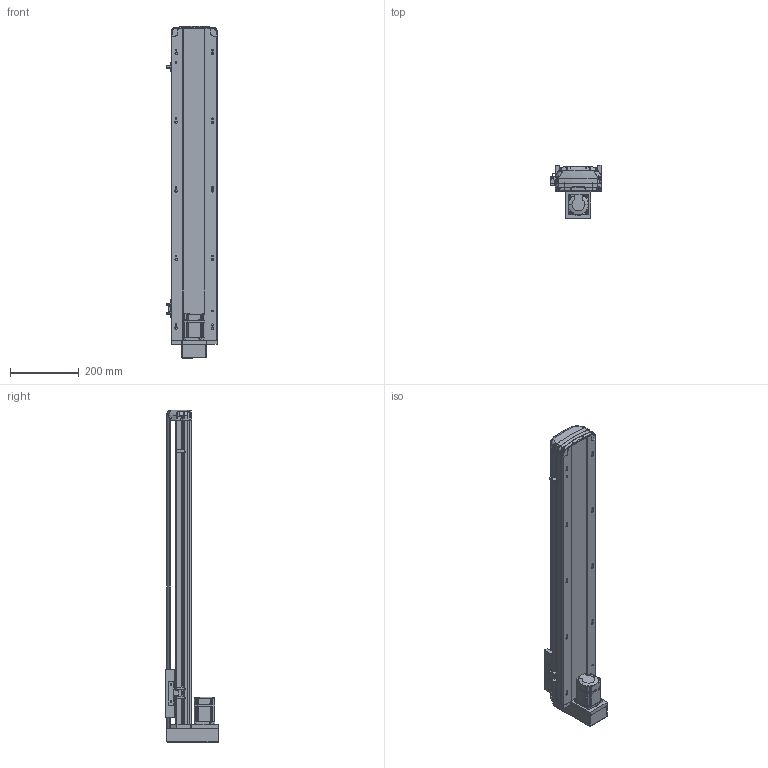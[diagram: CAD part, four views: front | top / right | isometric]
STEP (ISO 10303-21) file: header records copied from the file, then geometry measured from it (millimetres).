
FILE_DESCRIPTION (( 'STEP AP214' ), '1' );
FILE_NAME ('RTH14-XX-700-M-M20-C4.STEP', '2025-10-25T02:50:32', ( 'Microsoft' ), ( 'Microsoft' ), 'SwSTEP 2.0', 'SolidWorks 2018', '' );
FILE_SCHEMA (( 'AUTOMOTIVE_DESIGN' ));
Length unit declared in the file: millimetre
Products named in the file (10): N_RTH14-M-011P菁釱^RTH14-XX-XX-M-M20-C4; N_OMRON EE-SX672 传感器^RTH14-XX-XX-M-M20-C4; N_RTH13-M-018裔赽^RTH14-XX-XX-M-M20-C4; N_RTH14-R-004-SFSR16賑釱^RTH14-XX-XX-M-M20-C4; N_RTH13-L-012感应片（外置）^RTH14-XX-XX-M-M20-C4; N_RTH13-M-008萇儂啣狟殏^RTH14-XX-XX-M-M20-C4; N_RTH14-M-007P奻裔^RTH14-XX-XX-M-M20-C4; N_MSMD022P1AA_200W^RTH14-XX-XX-M-M20-C4; RTH14-XX-700-M-M20-C4; N_RTH14-GY-001P^RTH14-XX-XX-M-M20-C4
Assembly tree (11 placements, depth 2):
  RTH14-XX-700-M-M20-C4
    N_RTH14-M-011P菁釱^RTH14-XX-XX-M-M20-C4
    N_RTH14-M-007P奻裔^RTH14-XX-XX-M-M20-C4
    N_MSMD022P1AA_200W^RTH14-XX-XX-M-M20-C4
    N_RTH13-M-008萇儂啣狟殏^RTH14-XX-XX-M-M20-C4
    N_RTH13-M-018裔赽^RTH14-XX-XX-M-M20-C4
    N_RTH13-L-012感应片（外置）^RTH14-XX-XX-M-M20-C4
    N_OMRON EE-SX672 传感器^RTH14-XX-XX-M-M20-C4  x3
    N_RTH14-R-004-SFSR16賑釱^RTH14-XX-XX-M-M20-C4
    N_RTH14-GY-001P^RTH14-XX-XX-M-M20-C4
Bounding box: 148.5 x 156.5 x 967.37 mm (x, y, z)
Volume: 4296514.9 mm3; surface area: 987887 mm2
Topology: 11 solids, 11 shells, 1875 faces, 5240 edges, 3432 vertices
Faces by surface type: plane 995, cylinder 486, bspline 345, cone 45, torus 4
Entity records: 57214 total; most frequent: CARTESIAN_POINT 23039, ORIENTED_EDGE 7548, DIRECTION 6055, EDGE_CURVE 3774, VERTEX_POINT 2468, LINE 2173, VECTOR 2173, AXIS2_PLACEMENT_3D 1941
